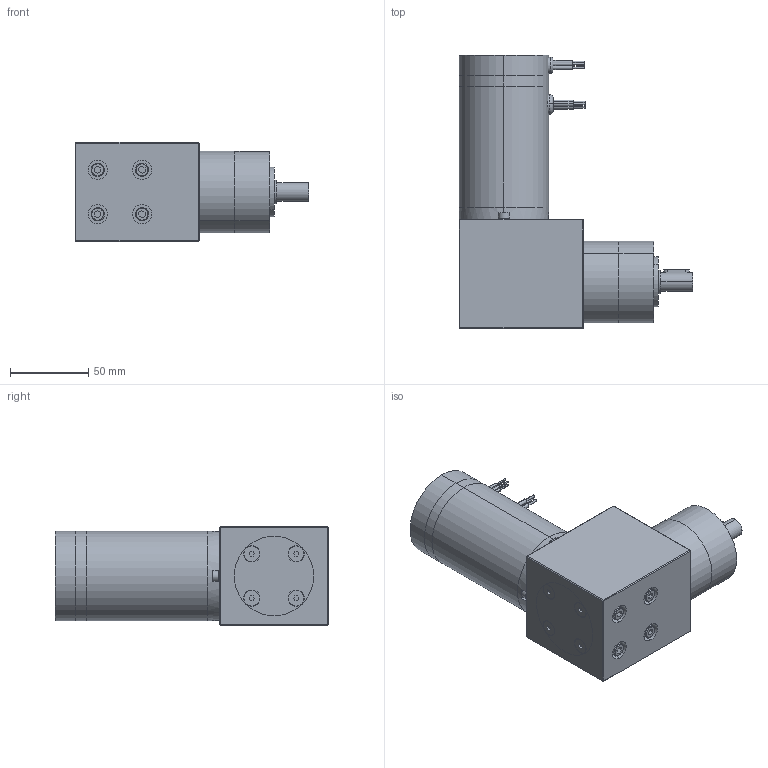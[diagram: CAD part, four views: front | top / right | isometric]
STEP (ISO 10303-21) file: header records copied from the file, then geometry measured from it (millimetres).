
FILE_DESCRIPTION (( 'STEP AP203' ), '1' );
FILE_NAME ('bl58487gra1.step', '2018-12-07T19:01:16', ( '' ), ( '' ), 'SwSTEP 2.0', 'SolidWorks 2017', '' );
FILE_SCHEMA (( 'CONFIG_CONTROL_DESIGN' ));
Length unit declared in the file: inch
Products named in the file (1): bl58487gra1
Bounding box: 149.17 x 174.42 x 63.5 mm (x, y, z)
Volume: 711478.9 mm3; surface area: 119678.7 mm2
Topology: 30 solids, 30 shells, 610 faces, 1316 edges, 822 vertices
Faces by surface type: plane 266, cylinder 236, cone 103, torus 5
Entity records: 16699 total; most frequent: DIRECTION 3066, CARTESIAN_POINT 2927, ORIENTED_EDGE 2584, EDGE_CURVE 1292, AXIS2_PLACEMENT_3D 1175, VERTEX_POINT 822, EDGE_LOOP 732, VECTOR 716
